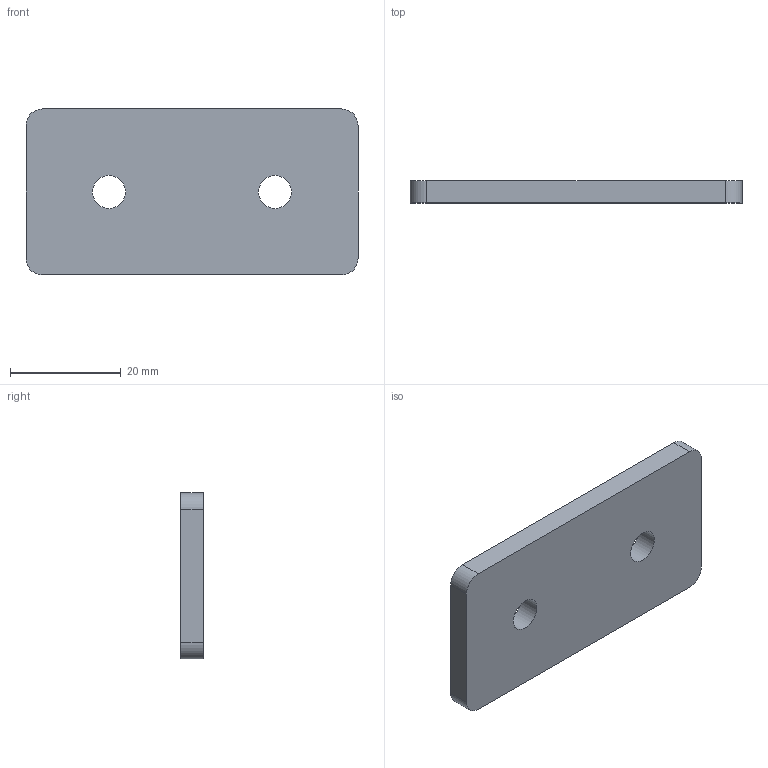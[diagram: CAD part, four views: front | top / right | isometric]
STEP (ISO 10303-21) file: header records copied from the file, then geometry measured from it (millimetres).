
FILE_DESCRIPTION( ( 'STEP AP203' ), '1' );
FILE_NAME( 'C:/Temp/Ganter_Step_05_03_2020/data/3_7/gn_967/gn_967_2/gn_967_2_f/Shackle GN 967-30-60-F-2-SR.stp', '2020-03-12T14:48:23', ( 'License CC BY-ND 4.0' ), ( 'CADENAS' ), ' ', 'PARTsolutions', ' ' );
FILE_SCHEMA( ( 'CONFIG_CONTROL_DESIGN' ) );
Length unit declared in the file: millimetre
Products named in the file (1): _Shackle GN 967-30-60-F-2-SR
Bounding box: 60 x 4 x 30 mm (x, y, z)
Volume: 6942.9 mm3; surface area: 4321.6 mm2
Topology: 1 solids, 1 shells, 12 faces, 30 edges, 20 vertices
Faces by surface type: plane 6, cylinder 6
Full cylindrical faces by diameter (mm): 6 x2
Entity records: 408 total; most frequent: DIRECTION 66, CARTESIAN_POINT 61, ORIENTED_EDGE 56, EDGE_CURVE 28, AXIS2_PLACEMENT_3D 25, VERTEX_POINT 20, EDGE_LOOP 18, LINE 16
